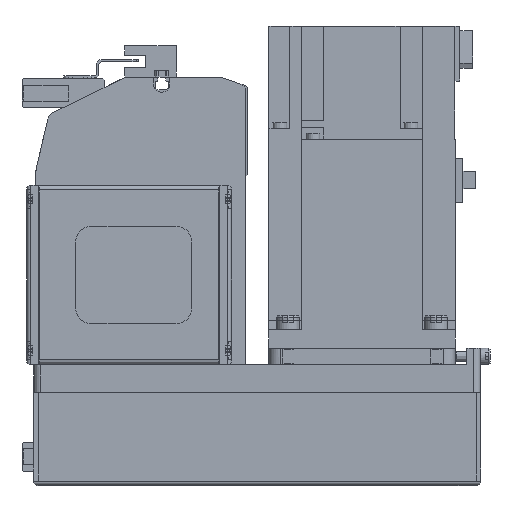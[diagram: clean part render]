
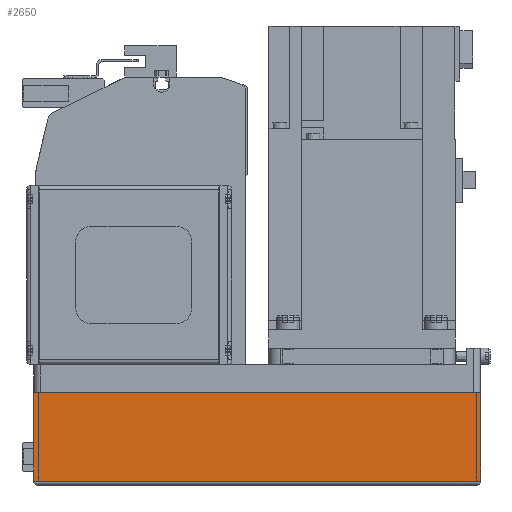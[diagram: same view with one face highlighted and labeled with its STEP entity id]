
A CAD part, left-side view. The second image highlights one B-rep face of the part: STEP entity #2650.
In plain terms, the highlighted planar face has unit normal (-1, 0, 0) as drawn and (0, 1, 0) by its records, which use the part's own axes.
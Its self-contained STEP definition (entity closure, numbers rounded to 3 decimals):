
#2650 = ADVANCED_FACE( '', ( #5857 ), #5858, .T. );
#5857 = FACE_OUTER_BOUND( '', #9599, .T. );
#5858 = PLANE( '', #9600 );
#9599 = EDGE_LOOP( '', ( #17138, #17139, #17140, #17141 ) );
#9600 = AXIS2_PLACEMENT_3D( '', #17142, #17143, #17144 );
#17138 = ORIENTED_EDGE( '', *, *, #23234, .F. );
#17139 = ORIENTED_EDGE( '', *, *, #21473, .F. );
#17140 = ORIENTED_EDGE( '', *, *, #23188, .T. );
#17141 = ORIENTED_EDGE( '', *, *, #23909, .T. );
#17142 = CARTESIAN_POINT( '', ( -192., 40., -50. ) );
#17143 = DIRECTION( '', ( 0., 1., 0. ) );
#17144 = DIRECTION( '', ( 0., 0., 1. ) );
#21473 = EDGE_CURVE( '', #25730, #25733, #25734, .T. );
#23188 = EDGE_CURVE( '', #25730, #28477, #28495, .T. );
#23234 = EDGE_CURVE( '', #25733, #25064, #28567, .T. );
#23909 = EDGE_CURVE( '', #28477, #25064, #29468, .T. );
#25064 = VERTEX_POINT( '', #31237 );
#25730 = VERTEX_POINT( '', #32319 );
#25733 = VERTEX_POINT( '', #32322 );
#25734 = LINE( '', #32323, #32324 );
#28477 = VERTEX_POINT( '', #36343 );
#28495 = LINE( '', #36369, #36370 );
#28567 = LINE( '', #36514, #36515 );
#29468 = LINE( '', #37956, #37957 );
#31237 = CARTESIAN_POINT( '', ( 0., 40., -12.1 ) );
#32319 = CARTESIAN_POINT( '', ( -192., 40., -50. ) );
#32322 = CARTESIAN_POINT( '', ( 0., 40., -50. ) );
#32323 = CARTESIAN_POINT( '', ( -192., 40., -50. ) );
#32324 = VECTOR( '', #40014, 1000. );
#36343 = CARTESIAN_POINT( '', ( -192., 40., -12.1 ) );
#36369 = CARTESIAN_POINT( '', ( -192., 40., -50. ) );
#36370 = VECTOR( '', #42327, 1000. );
#36514 = CARTESIAN_POINT( '', ( 0., 40., -50. ) );
#36515 = VECTOR( '', #42385, 1000. );
#37956 = CARTESIAN_POINT( '', ( -192., 40., -12.1 ) );
#37957 = VECTOR( '', #43079, 1000. );
#40014 = DIRECTION( '', ( 1., 0., 0. ) );
#42327 = DIRECTION( '', ( 0., 0., 1. ) );
#42385 = DIRECTION( '', ( 0., 0., 1. ) );
#43079 = DIRECTION( '', ( 1., 0., 0. ) );
